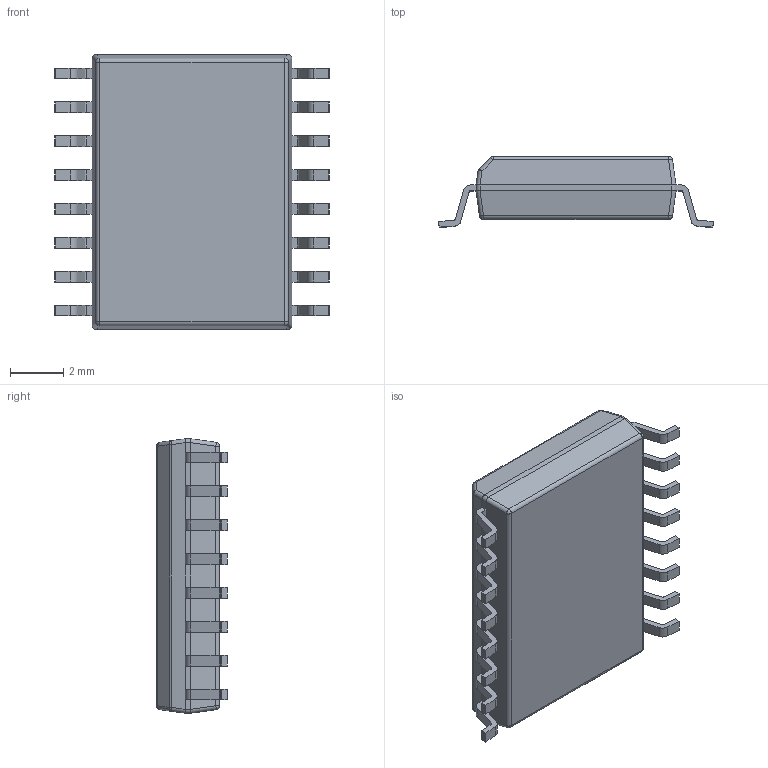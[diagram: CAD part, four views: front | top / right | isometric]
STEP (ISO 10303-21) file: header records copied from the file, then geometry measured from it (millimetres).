
FILE_DESCRIPTION (( 'STEP AP214' ), '1' );
FILE_NAME ('UCC21750.STEP', '2026-04-23T07:28:33', ( '' ), ( '' ), 'SwSTEP 2.0', 'SolidWorks 2021', '' );
FILE_SCHEMA (( 'AUTOMOTIVE_DESIGN' ));
Length unit declared in the file: millimetre
Products named in the file (1): UCC21750
Bounding box: 10.3 x 2.65 x 10.3 mm (x, y, z)
Volume: 177.8 mm3; surface area: 271.2 mm2
Topology: 18 solids, 18 shells, 279 faces, 696 edges, 454 vertices
Faces by surface type: plane 178, cylinder 91, sphere 10
Entity records: 8443 total; most frequent: CARTESIAN_POINT 1502, DIRECTION 1398, ORIENTED_EDGE 1392, EDGE_CURVE 696, VECTOR 506, LINE 506, VERTEX_POINT 454, AXIS2_PLACEMENT_3D 446
